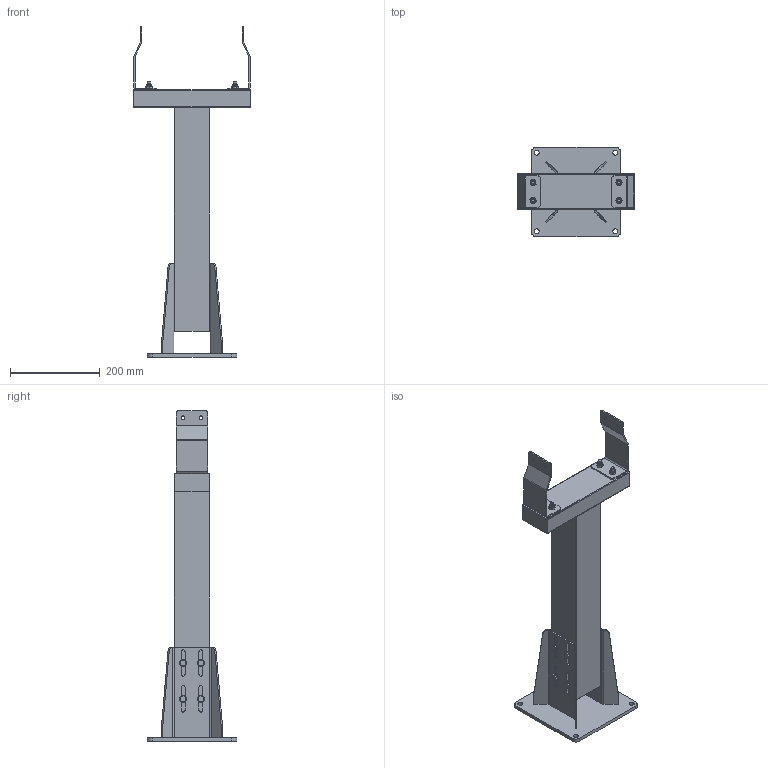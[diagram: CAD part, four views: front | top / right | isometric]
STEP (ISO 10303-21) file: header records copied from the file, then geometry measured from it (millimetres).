
FILE_DESCRIPTION(/* description */ ('LEG SUPPORT S560'),/* implementation_level */ '2;1');
FILE_NAME(/* name */ '500-1349.stp',/* time_stamp */ '2022-09-16T08:48:45+02:00',/* author */ ('PL'),/* organization */ ('CARRYLINE'),/* preprocessor_version */ 'ST-DEVELOPER v19.2',/* originating_system */ 'Autodesk Inventor 2023',/* authorisation */ '');
FILE_SCHEMA (('AUTOMOTIVE_DESIGN { 1 0 10303 214 3 1 1 }'));
Length unit declared in the file: millimetre
Products named in the file (12): 500-1349; 500-1030; 500-1131; 16757_2; 16757_1; 16757_3; 5540-8; 5500-816; 500-1020; 500-1240; 5600-816; 5552-8
Assembly tree (34 placements, depth 3):
  500-1349
    500-1030
    500-1131
      16757_1  x2
      16757_2
    16757_3  x2
    5540-8  x8
    5500-816  x8
    500-1020
    500-1240  x2
    5600-816  x4
    5552-8  x4
Bounding box: 260 x 200 x 738.98 mm (x, y, z)
Volume: 1091950.1 mm3; surface area: 736114.4 mm2
Topology: 33 solids, 34 shells, 552 faces, 1300 edges, 836 vertices
Faces by surface type: plane 316, cylinder 152, cone 76, torus 8
Full cylindrical faces by diameter (mm): 6.647 x16, 8 x12, 8.2 x8, 8.4 x8, 9 x12, 11 x4, 11.6 x4, 11.63 x8, 16 x8
Entity records: 7612 total; most frequent: CARTESIAN_POINT 1281, DIRECTION 1268, ORIENTED_EDGE 1162, EDGE_CURVE 581, AXIS2_PLACEMENT_3D 438, LINE 392, VECTOR 392, VERTEX_POINT 379
